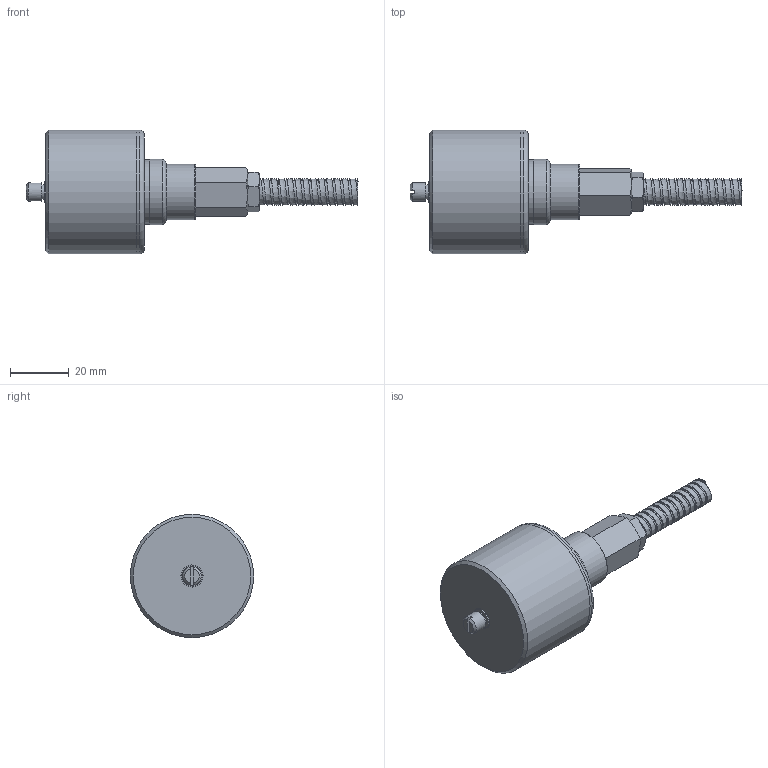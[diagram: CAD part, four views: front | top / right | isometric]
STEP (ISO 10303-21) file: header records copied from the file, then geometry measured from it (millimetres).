
FILE_DESCRIPTION(/* description */ (''),/* implementation_level */ '2;1');
FILE_NAME(/* name */ 'Z:\Engineering\Drawings\3D Library\Assemblies\Website\Triaxial Top\Premium\HS-173 Round FEP Conduit\HS-173RXXX42C02.stp',/* time_stamp */ '2023-03-25T19:43:56+00:00',/* author */ ('Ricardo.Peneda'),/* organization */ (''),/* preprocessor_version */ 'ST-DEVELOPER v18.1',/* originating_system */ 'Autodesk Inventor 2021',/* authorisation */ '');
FILE_SCHEMA (('AUTOMOTIVE_DESIGN { 1 0 10303 214 3 1 1 }'));
Length unit declared in the file: inch
Products named in the file (1): HS-173RXXX42C02_Shrinkwrap_1
Bounding box: 112.99 x 42 x 42 mm (x, y, z)
Volume: 53591.9 mm3; surface area: 19269.8 mm2
Topology: 7 solids, 7 shells, 127 faces, 326 edges, 234 vertices
Faces by surface type: plane 56, cylinder 31, cone 27, bspline 8, torus 3, sphere 2
Full cylindrical faces by diameter (mm): 4.914 x2, 5.359 x1, 6.34 x2, 6.5 x1, 7.027 x1, 7.5 x1, 7.9 x2, 8.6 x1, 9 x1, 10.2 x1, 11.959 x1, 12 x3, 14 x2, 15 x2, 18 x1, 19 x1, 19.95 x1, 20 x1, 22 x1, 22.2 x1, 40 x1, 42 x2
Entity records: 18133 total; most frequent: CARTESIAN_POINT 14801, DIRECTION 678, ORIENTED_EDGE 648, EDGE_CURVE 324, AXIS2_PLACEMENT_3D 289, VERTEX_POINT 234, CIRCLE 169, EDGE_LOOP 156
